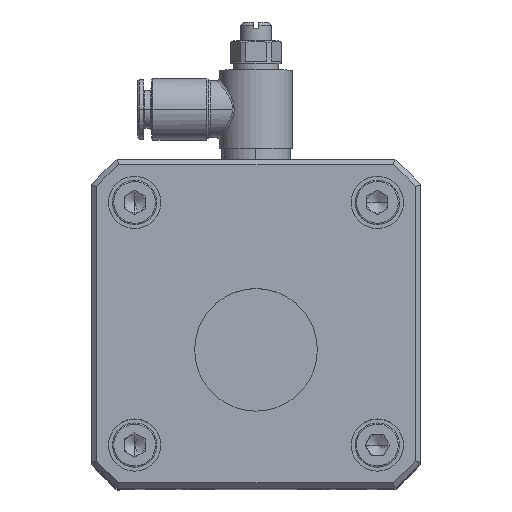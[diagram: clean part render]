
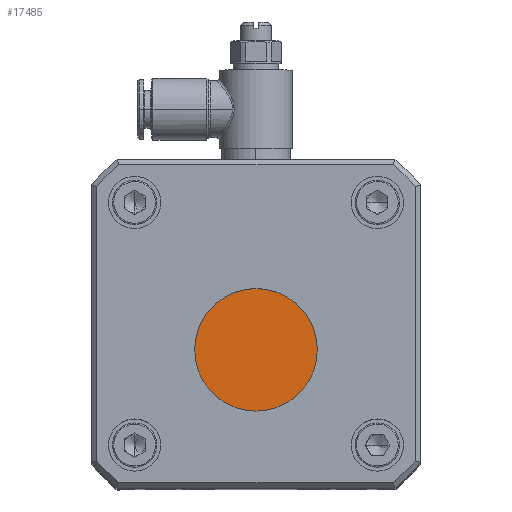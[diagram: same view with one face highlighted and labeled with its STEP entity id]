
A CAD part, top view. The second image highlights one B-rep face of the part: STEP entity #17485.
In plain terms, the highlighted planar face has unit normal (0, 0, 1).
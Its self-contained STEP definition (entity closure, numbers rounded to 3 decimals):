
#2124 = AXIS2_PLACEMENT_3D ( 'NONE', #14412, #11738, #17031 ) ;
#3829 = VERTEX_POINT ( 'NONE', #31420 ) ;
#6539 = PLANE ( 'NONE',  #2124 ) ;
#8200 = CIRCLE ( 'NONE', #33208, 11.75 ) ;
#10594 = DIRECTION ( 'NONE',  ( 0., 0., 1. ) ) ;
#11738 = DIRECTION ( 'NONE',  ( 0., 0., 1. ) ) ;
#12016 = DIRECTION ( 'NONE',  ( 1., 0., 0. ) ) ;
#13018 = ORIENTED_EDGE ( 'NONE', *, *, #27305, .T. ) ;
#13252 = EDGE_LOOP ( 'NONE', ( #13018, #23862 ) ) ;
#13499 = CARTESIAN_POINT ( 'NONE',  ( 0., -5., 91. ) ) ;
#14412 = CARTESIAN_POINT ( 'NONE',  ( -30.4, 13.8, 91. ) ) ;
#16912 = CARTESIAN_POINT ( 'NONE',  ( -11.75, -5., 91. ) ) ;
#17031 = DIRECTION ( 'NONE',  ( 1., 0., 0. ) ) ;
#17485 = ADVANCED_FACE ( 'NONE', ( #22134 ), #6539, .T. ) ;
#18321 = CIRCLE ( 'NONE', #30683, 11.75 ) ;
#21341 = DIRECTION ( 'NONE',  ( 1., 0., 0. ) ) ;
#22134 = FACE_OUTER_BOUND ( 'NONE', #13252, .T. ) ;
#22692 = DIRECTION ( 'NONE',  ( 0., 0., 1. ) ) ;
#23862 = ORIENTED_EDGE ( 'NONE', *, *, #24366, .T. ) ;
#24366 = EDGE_CURVE ( 'NONE', #28684, #3829, #8200, .T. ) ;
#27305 = EDGE_CURVE ( 'NONE', #3829, #28684, #18321, .T. ) ;
#28684 = VERTEX_POINT ( 'NONE', #16912 ) ;
#30683 = AXIS2_PLACEMENT_3D ( 'NONE', #33140, #22692, #12016 ) ;
#31420 = CARTESIAN_POINT ( 'NONE',  ( 11.75, -5., 91. ) ) ;
#33140 = CARTESIAN_POINT ( 'NONE',  ( 0., -5., 91. ) ) ;
#33208 = AXIS2_PLACEMENT_3D ( 'NONE', #13499, #10594, #21341 ) ;
